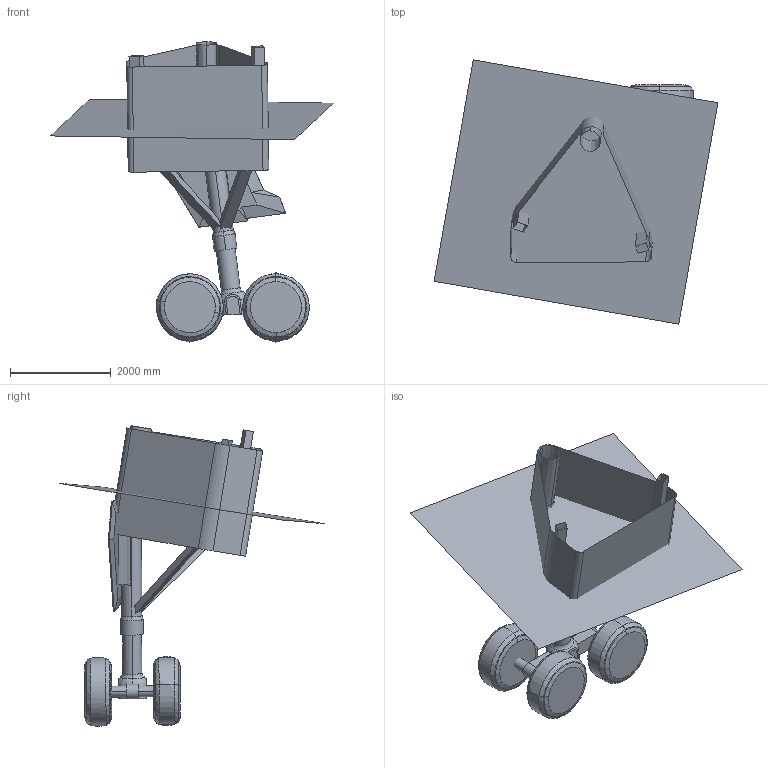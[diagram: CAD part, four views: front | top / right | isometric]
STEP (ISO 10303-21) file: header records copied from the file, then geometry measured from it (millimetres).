
FILE_DESCRIPTION(('CATIA V5 STEP Exchange'),'2;1');
FILE_NAME('C:\Users\ww962c\Desktop\CATIA Working\CRM-HL\mlgr01.stp','2022-12-08T20:29:26+00:00',('none'),('none'),'CATIA Version 5-6 Release 2018 SP6 HF6','CATIA V5 STEP AP203','none');
FILE_SCHEMA(('CONFIG_CONTROL_DESIGN'));
Length unit declared in the file: inch
Products named in the file (1): Part133
Bounding box: 5640.74 x 5248.46 x 5969.97 mm (x, y, z)
Surface area: 88181558.6 mm2 (no closed solid volume)
Topology: 0 solids, 12 shells, 159 faces, 352 edges, 214 vertices
Faces by surface type: plane 65, revolution 42, cylinder 25, cone 16, bspline 7, torus 2, extrusion 2
Entity records: 6233 total; most frequent: CARTESIAN_POINT 3053, ORIENTED_EDGE 664, DIRECTION 476, EDGE_CURVE 351, VERTEX_POINT 209, AXIS2_PLACEMENT_3D 179, VECTOR 164, LINE 162
